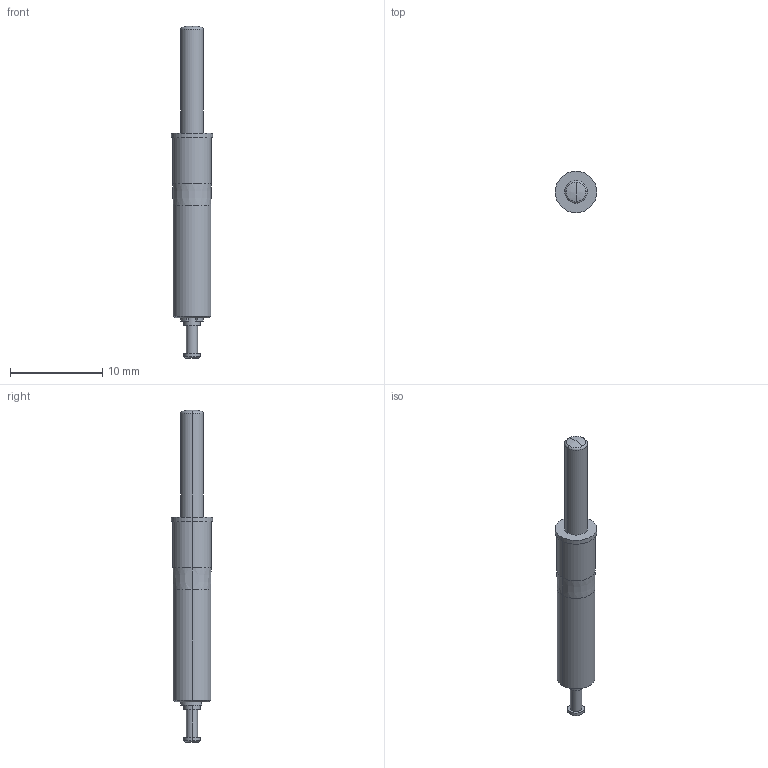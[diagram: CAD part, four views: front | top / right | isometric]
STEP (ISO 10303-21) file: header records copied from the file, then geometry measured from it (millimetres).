
FILE_DESCRIPTION (( 'STEP AP214' ), '1' );
FILE_NAME ('LT-MEDIUM-SCT.STEP', '2023-05-18T14:05:22', ( '' ), ( '' ), 'SwSTEP 2.0', 'SolidWorks 2022', '' );
FILE_SCHEMA (( 'AUTOMOTIVE_DESIGN' ));
Length unit declared in the file: millimetre
Products named in the file (1): LT-MEDIUM-SCT
Bounding box: 4.5 x 4.5 x 35.95 mm (x, y, z)
Volume: 330.2 mm3; surface area: 422.4 mm2
Topology: 4 solids, 4 shells, 66 faces, 156 edges, 101 vertices
Faces by surface type: bspline 34, cylinder 14, plane 8, cone 6, sphere 2, torus 2
Entity records: 2075 total; most frequent: CARTESIAN_POINT 782, ORIENTED_EDGE 312, DIRECTION 166, EDGE_CURVE 156, VERTEX_POINT 101, B_SPLINE_CURVE_WITH_KNOTS 82, AXIS2_PLACEMENT_3D 73, EDGE_LOOP 69
